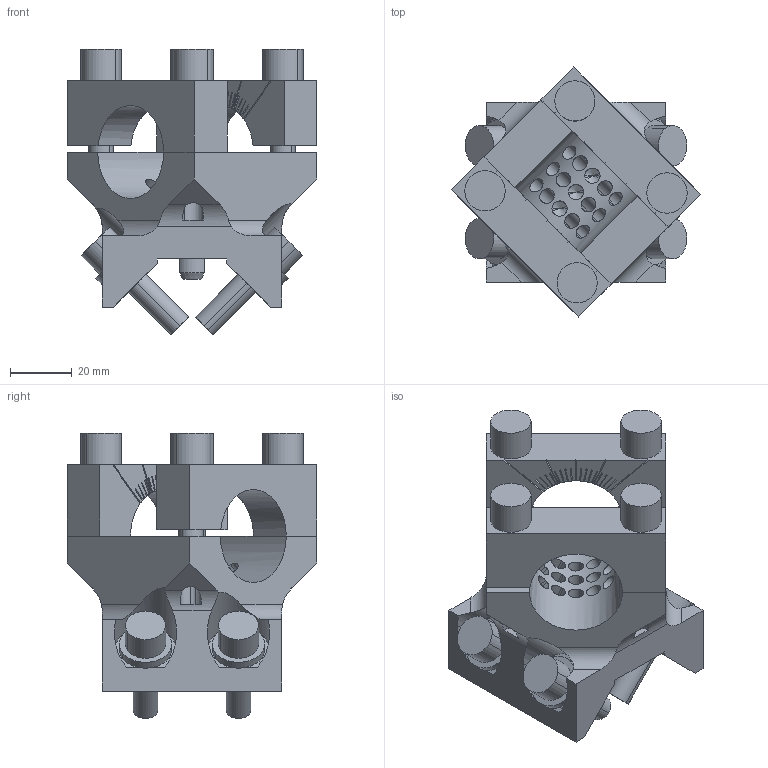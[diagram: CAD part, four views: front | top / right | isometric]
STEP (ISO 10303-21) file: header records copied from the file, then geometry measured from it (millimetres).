
FILE_DESCRIPTION(('STEP AP214'),'1');
FILE_NAME('EGT106_1706217_50RD30-X45-RE.CATPart.stp','2015-09-14T13:08:11',('3D-Tool'),(' '),'Spatial InterOp 3D',' ',' ');
FILE_SCHEMA(('automotive_design'));
Length unit declared in the file: millimetre
Products named in the file (12): EGT106_1706217_50RD30-X45-RE|EGT106_50RD30-X45-RE|Bohrbearbeitung; EGT106_1706217_50RD30-X45-RE|EGT205_SCHELLE_RD30_1|Assemble.75; EGT106_1706217_50RD30-X45-RE|EGT205_SCHELLE_RD30_2|Assemble.76; 1; 2; 3; 4; EGT106_1706217_50RD30-X45-RE|EGT_212_ZENTRIERSTIFT|Pocket.11; 5; 6; 7; 8
Bounding box: 80.61 x 80.61 x 91.97 mm (x, y, z)
Volume: 139564.1 mm3; surface area: 48487.4 mm2
Topology: 12 solids, 12 shells, 491 faces, 1311 edges, 808 vertices
Faces by surface type: plane 216, cylinder 201, cone 74
Entity records: 20751 total; most frequent: CARTESIAN_POINT 4719, ORIENTED_EDGE 2502, DIRECTION 2411, EDGE_CURVE 1251, AXIS2_PLACEMENT_3D 881, VERTEX_POINT 808, LINE 649, VECTOR 649
